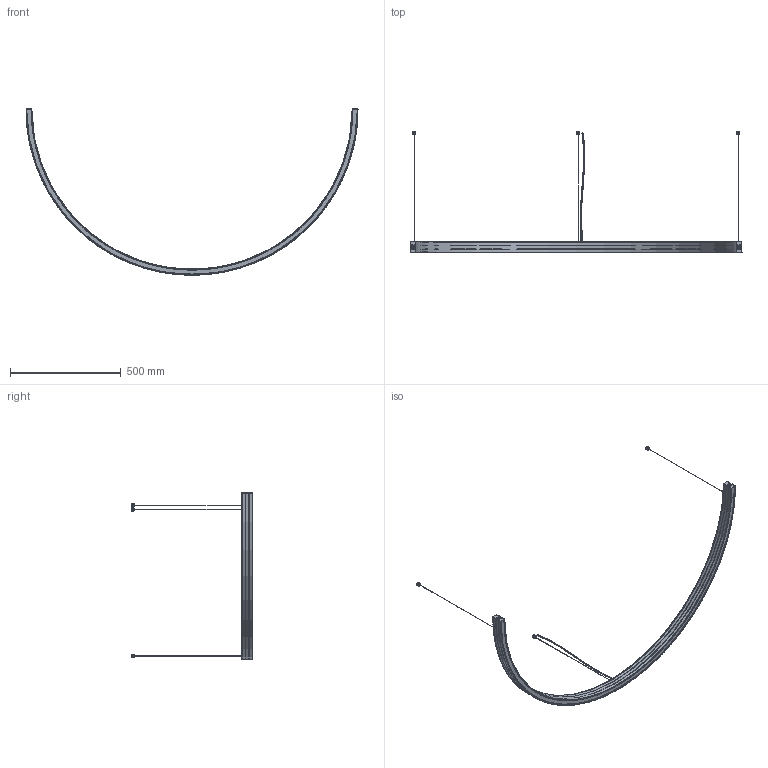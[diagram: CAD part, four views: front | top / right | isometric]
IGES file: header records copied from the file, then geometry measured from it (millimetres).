
Start section: SolidWorks IGES file using analytic representation for surfaces
Global section: file name: L:\Tecnico_PMT\R&D\NEMOstudio\ZIRKOL NEMO\ZIRKOL ROUND (arco)\3D\3D ZIRKOL ARCO 1,5M.IGS; native system: SolidWorks 2016; preprocessor: SolidWorks 2016; author: MartinaCornero; date: 230321.170002; units: millimetre
Bounding box: 1500 x 548.57 x 752 mm (x, y, z)
Surface area: 857979.7 mm2 (no closed solid volume)
Topology: 0 solids, 0 shells, 923 faces, 12498 edges, 12483 vertices
Faces by surface type: bspline 589, revolution 334
